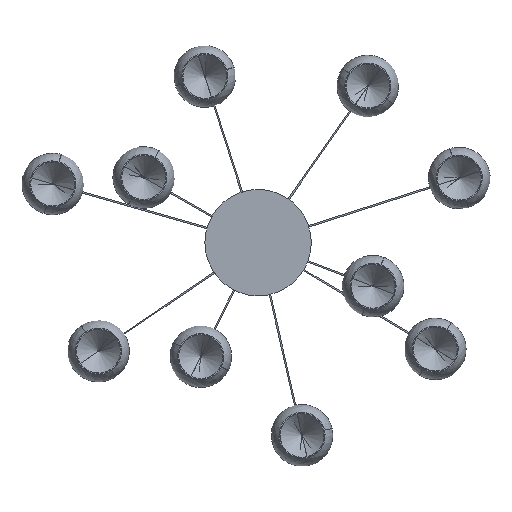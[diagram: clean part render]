
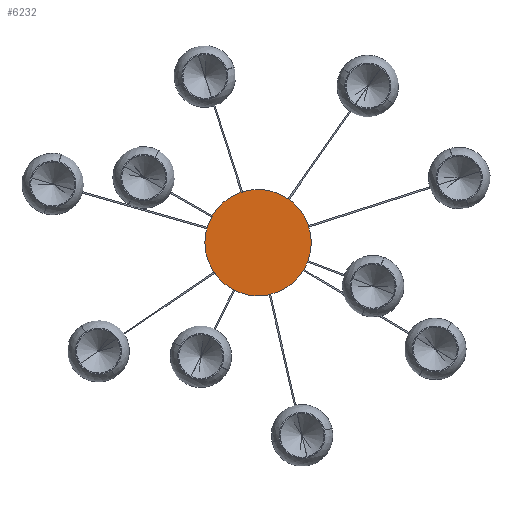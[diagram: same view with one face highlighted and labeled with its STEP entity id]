
A CAD part, front view. The second image highlights one B-rep face of the part: STEP entity #6232.
In plain terms, the highlighted planar face has unit normal (0, -1, 0).
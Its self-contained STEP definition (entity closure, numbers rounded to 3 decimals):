
#70 = CARTESIAN_POINT ( 'NONE',  ( 0., 0., 0. ) ) ;
#103 = CIRCLE ( 'NONE', #2023, 155. ) ;
#281 = FACE_OUTER_BOUND ( 'NONE', #3141, .T. ) ;
#419 = CARTESIAN_POINT ( 'NONE',  ( 0., 0., 0. ) ) ;
#619 = DIRECTION ( 'NONE',  ( 0., 0., 1. ) ) ;
#727 = AXIS2_PLACEMENT_3D ( 'NONE', #70, #2734, #1269 ) ;
#1269 = DIRECTION ( 'NONE',  ( 0., 0., 1. ) ) ;
#1825 = CARTESIAN_POINT ( 'NONE',  ( 0., 0., 0. ) ) ;
#2002 = VERTEX_POINT ( 'NONE', #5612 ) ;
#2023 = AXIS2_PLACEMENT_3D ( 'NONE', #1825, #5528, #619 ) ;
#2162 = VERTEX_POINT ( 'NONE', #6562 ) ;
#2734 = DIRECTION ( 'NONE',  ( 0., 1., 0. ) ) ;
#3141 = EDGE_LOOP ( 'NONE', ( #4879, #4583 ) ) ;
#3155 = DIRECTION ( 'NONE',  ( 0., 0., 1. ) ) ;
#4583 = ORIENTED_EDGE ( 'NONE', *, *, #6926, .F. ) ;
#4743 = AXIS2_PLACEMENT_3D ( 'NONE', #419, #5245, #3155 ) ;
#4879 = ORIENTED_EDGE ( 'NONE', *, *, #4946, .F. ) ;
#4946 = EDGE_CURVE ( 'NONE', #2162, #2002, #5055, .T. ) ;
#5055 = CIRCLE ( 'NONE', #727, 155. ) ;
#5245 = DIRECTION ( 'NONE',  ( 0., 1., 0. ) ) ;
#5528 = DIRECTION ( 'NONE',  ( 0., 1., 0. ) ) ;
#5612 = CARTESIAN_POINT ( 'NONE',  ( 0., 0., 155. ) ) ;
#6232 = ADVANCED_FACE ( 'NONE', ( #281 ), #6927, .F. ) ;
#6562 = CARTESIAN_POINT ( 'NONE',  ( 0., 0., -155. ) ) ;
#6926 = EDGE_CURVE ( 'NONE', #2002, #2162, #103, .T. ) ;
#6927 = PLANE ( 'NONE',  #4743 ) ;
